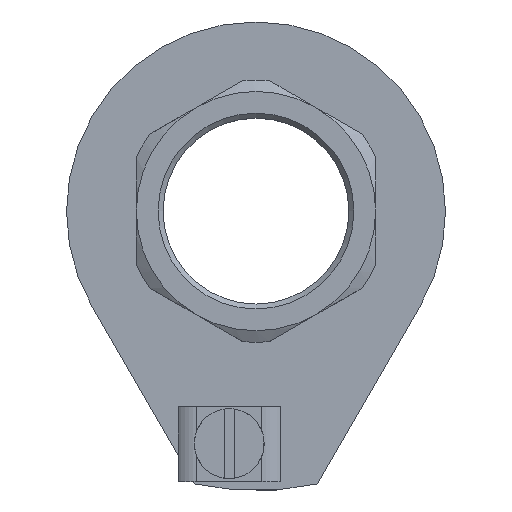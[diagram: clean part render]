
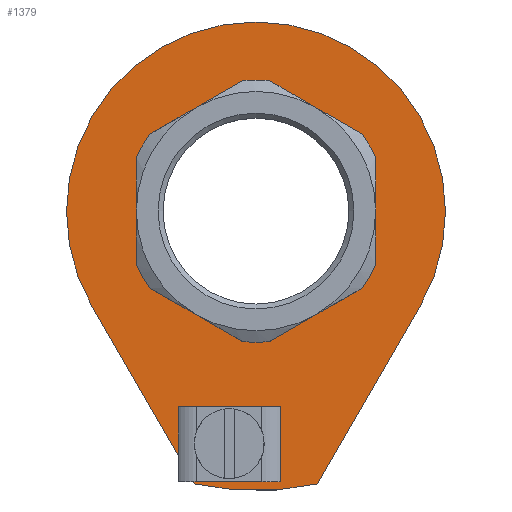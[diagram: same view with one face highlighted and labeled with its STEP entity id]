
A CAD part, top view. The second image highlights one B-rep face of the part: STEP entity #1379.
In plain terms, the highlighted planar face has unit normal (0, 0, 1).
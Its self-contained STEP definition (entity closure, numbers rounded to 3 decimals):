
#127=LINE('',#2154,#193);
#128=LINE('',#2158,#194);
#193=VECTOR('',#1806,1000.);
#194=VECTOR('',#1809,1000.);
#439=ORIENTED_EDGE('',*,*,#598,.T.);
#440=ORIENTED_EDGE('',*,*,#599,.T.);
#441=ORIENTED_EDGE('',*,*,#600,.T.);
#442=ORIENTED_EDGE('',*,*,#601,.T.);
#443=ORIENTED_EDGE('',*,*,#602,.T.);
#444=ORIENTED_EDGE('',*,*,#603,.F.);
#598=EDGE_CURVE('',#699,#699,#760,.F.);
#599=EDGE_CURVE('',#700,#701,#761,.T.);
#600=EDGE_CURVE('',#701,#702,#127,.T.);
#601=EDGE_CURVE('',#702,#703,#762,.T.);
#602=EDGE_CURVE('',#703,#700,#128,.T.);
#603=EDGE_CURVE('',#704,#704,#763,.T.);
#699=VERTEX_POINT('',#2150);
#700=VERTEX_POINT('',#2152);
#701=VERTEX_POINT('',#2153);
#702=VERTEX_POINT('',#2155);
#703=VERTEX_POINT('',#2157);
#704=VERTEX_POINT('',#2160);
#760=CIRCLE('',#1509,1.721);
#761=CIRCLE('',#1510,28.);
#762=CIRCLE('',#1511,19.);
#763=CIRCLE('',#1512,10.5);
#840=EDGE_LOOP('',(#439));
#841=EDGE_LOOP('',(#440,#441,#442,#443));
#842=EDGE_LOOP('',(#444));
#930=FACE_BOUND('',#840,.T.);
#931=FACE_BOUND('',#841,.T.);
#932=FACE_BOUND('',#842,.T.);
#981=PLANE('',#1508);
#1379=ADVANCED_FACE('',(#930,#931,#932),#981,.T.);
#1508=AXIS2_PLACEMENT_3D('',#2148,#1800,#1801);
#1509=AXIS2_PLACEMENT_3D('',#2149,#1802,#1803);
#1510=AXIS2_PLACEMENT_3D('',#2151,#1804,#1805);
#1511=AXIS2_PLACEMENT_3D('',#2156,#1807,#1808);
#1512=AXIS2_PLACEMENT_3D('',#2159,#1810,#1811);
#1800=DIRECTION('',(0.,0.,1.));
#1801=DIRECTION('',(1.,0.,0.));
#1802=DIRECTION('',(0.,0.,1.));
#1803=DIRECTION('',(1.,0.,0.));
#1804=DIRECTION('',(0.,0.,1.));
#1805=DIRECTION('',(1.,0.,0.));
#1806=DIRECTION('',(0.5,0.866,0.));
#1807=DIRECTION('',(0.,0.,1.));
#1808=DIRECTION('',(1.,0.,0.));
#1809=DIRECTION('',(0.5,-0.866,0.));
#1810=DIRECTION('',(0.,0.,1.));
#1811=DIRECTION('',(1.,0.,0.));
#2148=CARTESIAN_POINT('',(6.026,-14.323,0.8));
#2149=CARTESIAN_POINT('',(-2.7,-23.346,0.8));
#2150=CARTESIAN_POINT('',(-0.979,-23.346,0.8));
#2151=CARTESIAN_POINT('',(0.,0.,0.8));
#2152=CARTESIAN_POINT('',(-6.171,-27.312,0.8));
#2153=CARTESIAN_POINT('',(6.171,-27.312,0.8));
#2154=CARTESIAN_POINT('',(6.171,-27.312,0.8));
#2155=CARTESIAN_POINT('',(16.454,-9.5,0.8));
#2156=CARTESIAN_POINT('',(0.,0.,0.8));
#2157=CARTESIAN_POINT('',(-16.454,-9.5,0.8));
#2158=CARTESIAN_POINT('',(-16.454,-9.5,0.8));
#2159=CARTESIAN_POINT('',(0.,0.,0.8));
#2160=CARTESIAN_POINT('',(10.5,0.,0.8));
